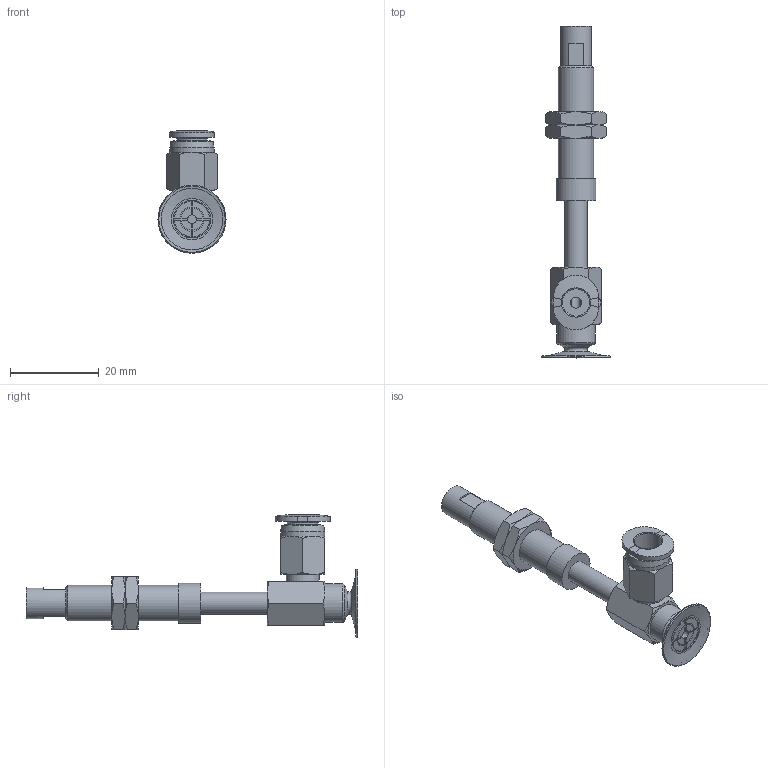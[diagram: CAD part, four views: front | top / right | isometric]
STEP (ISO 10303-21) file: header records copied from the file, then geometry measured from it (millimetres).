
FILE_DESCRIPTION(('STEP AP203'),'1');
FILE_NAME('-O.stp','2025-02-14T06:53:05',(' '),(' '),'Spatial InterOp 3D',' ',' ');
FILE_SCHEMA(('CONFIG_CONTROL_DESIGN'));
Length unit declared in the file: millimetre
Products named in the file (7): BNABPAYS-15B-15-※-O; NAPAYS-10A-15--M; NAPAYS-10A-15--F; Nut-10A-S; CONNECTOR-10A-15-PA; BPAG-15B-※_3D; PC-C_06-M5
Assembly tree (7 placements, depth 2):
  BNABPAYS-15B-15-※-O
    NAPAYS-10A-15--M
    NAPAYS-10A-15--F
    Nut-10A-S  x2
    CONNECTOR-10A-15-PA
    BPAG-15B-※_3D
    PC-C_06-M5
Bounding box: 15.4 x 75 x 27.68 mm (x, y, z)
Volume: 3957.8 mm3; surface area: 6117.2 mm2
Topology: 6 solids, 9 shells, 222 faces, 482 edges, 292 vertices
Faces by surface type: plane 88, cone 76, cylinder 39, torus 12, bspline 4, revolution 3
Full cylindrical faces by diameter (mm): 2 x2, 4 x4, 4.134 x2, 5 x4, 6 x2, 7 x2, 7.188 x2, 7.4 x1, 8 x1, 8.2 x1, 8.5 x1, 8.7 x1, 9 x1, 10 x1
Entity records: 5904 total; most frequent: CARTESIAN_POINT 1603, DIRECTION 821, ORIENTED_EDGE 732, EDGE_CURVE 368, AXIS2_PLACEMENT_3D 350, EDGE_LOOP 280, VERTEX_POINT 252, FACE_OUTER_BOUND 175
